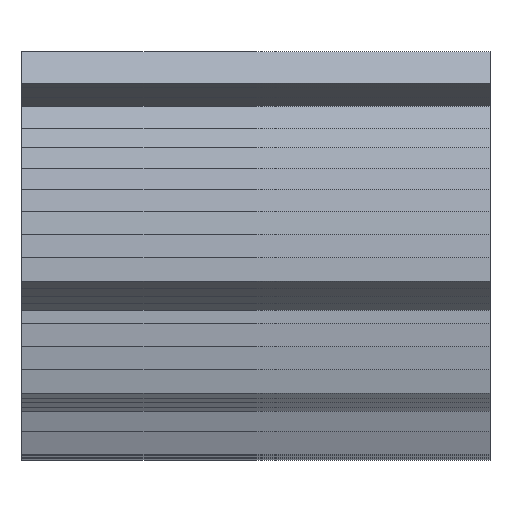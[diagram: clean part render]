
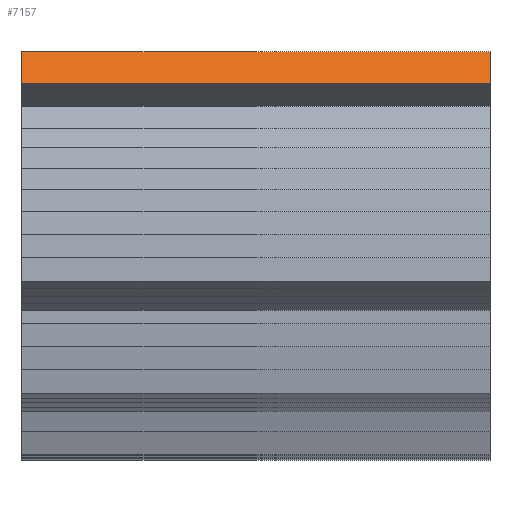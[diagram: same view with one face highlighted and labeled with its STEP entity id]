
A CAD part, top view. The second image highlights one B-rep face of the part: STEP entity #7157.
In plain terms, the highlighted planar face has unit normal (0, 0.588, 0.809).
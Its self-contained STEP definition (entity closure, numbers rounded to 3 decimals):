
#72 = PLANE('',#73);
#73 = AXIS2_PLACEMENT_3D('',#74,#75,#76);
#74 = CARTESIAN_POINT('',(-14.,0.,0.)
  );
#75 = DIRECTION('',(1.,0.,0.));
#76 = DIRECTION('',(0.,-0.995,-0.105));
#126 = PLANE('',#127);
#127 = AXIS2_PLACEMENT_3D('',#128,#129,#130);
#128 = CARTESIAN_POINT('',(-26.,0.,0.)
  );
#129 = DIRECTION('',(1.,0.,0.));
#130 = DIRECTION('',(0.,-0.995,-0.105));
#1307 = VERTEX_POINT('',#1308);
#1308 = CARTESIAN_POINT('',(-14.,-21.439,15.576));
#1327 = CYLINDRICAL_SURFACE('',#1328,26.5);
#1328 = AXIS2_PLACEMENT_3D('',#1329,#1330,#1331);
#1329 = CARTESIAN_POINT('',(-27.,0.,0.));
#1330 = DIRECTION('',(-1.,-0.,-0.));
#1331 = DIRECTION('',(0.,-1.,0.));
#1339 = EDGE_CURVE('',#1340,#1307,#1342,.T.);
#1340 = VERTEX_POINT('',#1341);
#1341 = CARTESIAN_POINT('',(-14.,-22.247,16.164));
#1342 = SURFACE_CURVE('',#1343,(#1347,#1353),.PCURVE_S1.);
#1343 = LINE('',#1344,#1345);
#1344 = CARTESIAN_POINT('',(-14.,0.,0.)
  );
#1345 = VECTOR('',#1346,1.);
#1346 = DIRECTION('',(0.,0.809,-0.588));
#1347 = PCURVE('',#72,#1348);
#1348 = DEFINITIONAL_REPRESENTATION('',(#1349),#1352);
#1349 = B_SPLINE_CURVE_WITH_KNOTS('',1,(#1350,#1351),.UNSPECIFIED.,.F.,
  .F.,(2,2),(-42.,0.),.PIECEWISE_BEZIER_KNOTS.);
#1350 = CARTESIAN_POINT('',(31.212,-28.103));
#1351 = CARTESIAN_POINT('',(0.,0.));
#1352 = ( GEOMETRIC_REPRESENTATION_CONTEXT(2) 
PARAMETRIC_REPRESENTATION_CONTEXT() REPRESENTATION_CONTEXT('2D SPACE',''
  ) );
#1353 = PCURVE('',#1354,#1359);
#1354 = PLANE('',#1355);
#1355 = AXIS2_PLACEMENT_3D('',#1356,#1357,#1358);
#1356 = CARTESIAN_POINT('',(-27.,0.,0.));
#1357 = DIRECTION('',(0.,-0.588,-0.809));
#1358 = DIRECTION('',(0.,-0.809,0.588));
#1359 = DEFINITIONAL_REPRESENTATION('',(#1360),#1363);
#1360 = B_SPLINE_CURVE_WITH_KNOTS('',1,(#1361,#1362),.UNSPECIFIED.,.F.,
  .F.,(2,2),(-42.,0.),.PIECEWISE_BEZIER_KNOTS.);
#1361 = CARTESIAN_POINT('',(42.,-13.));
#1362 = CARTESIAN_POINT('',(0.,-13.));
#1363 = ( GEOMETRIC_REPRESENTATION_CONTEXT(2) 
PARAMETRIC_REPRESENTATION_CONTEXT() REPRESENTATION_CONTEXT('2D SPACE',''
  ) );
#1381 = PLANE('',#1382);
#1382 = AXIS2_PLACEMENT_3D('',#1383,#1384,#1385);
#1383 = CARTESIAN_POINT('',(-26.,-22.126,16.33));
#1384 = DIRECTION('',(0.,0.809,-0.588));
#1385 = DIRECTION('',(0.,-0.588,-0.809));
#7115 = VERTEX_POINT('',#7116);
#7116 = CARTESIAN_POINT('',(-26.,-22.247,16.164));
#7137 = EDGE_CURVE('',#1340,#7115,#7138,.T.);
#7138 = SURFACE_CURVE('',#7139,(#7143,#7149),.PCURVE_S1.);
#7139 = LINE('',#7140,#7141);
#7140 = CARTESIAN_POINT('',(-26.5,-22.247,16.164));
#7141 = VECTOR('',#7142,1.);
#7142 = DIRECTION('',(-1.,0.,0.));
#7143 = PCURVE('',#1381,#7144);
#7144 = DEFINITIONAL_REPRESENTATION('',(#7145),#7148);
#7145 = B_SPLINE_CURVE_WITH_KNOTS('',1,(#7146,#7147),.UNSPECIFIED.,.F.,
  .F.,(2,2),(-12.5,-0.5),.PIECEWISE_BEZIER_KNOTS.);
#7146 = CARTESIAN_POINT('',(0.206,-12.));
#7147 = CARTESIAN_POINT('',(0.206,0.));
#7148 = ( GEOMETRIC_REPRESENTATION_CONTEXT(2) 
PARAMETRIC_REPRESENTATION_CONTEXT() REPRESENTATION_CONTEXT('2D SPACE',''
  ) );
#7149 = PCURVE('',#1354,#7150);
#7150 = DEFINITIONAL_REPRESENTATION('',(#7151),#7154);
#7151 = B_SPLINE_CURVE_WITH_KNOTS('',1,(#7152,#7153),.UNSPECIFIED.,.F.,
  .F.,(2,2),(-12.5,-0.5),.PIECEWISE_BEZIER_KNOTS.);
#7152 = CARTESIAN_POINT('',(27.499,-13.));
#7153 = CARTESIAN_POINT('',(27.499,-1.));
#7154 = ( GEOMETRIC_REPRESENTATION_CONTEXT(2) 
PARAMETRIC_REPRESENTATION_CONTEXT() REPRESENTATION_CONTEXT('2D SPACE',''
  ) );
#7157 = ADVANCED_FACE('',(#7158),#1354,.F.);
#7158 = FACE_BOUND('',#7159,.F.);
#7159 = EDGE_LOOP('',(#7160,#7161,#7162,#7183));
#7160 = ORIENTED_EDGE('',*,*,#1339,.F.);
#7161 = ORIENTED_EDGE('',*,*,#7137,.T.);
#7162 = ORIENTED_EDGE('',*,*,#7163,.T.);
#7163 = EDGE_CURVE('',#7115,#7164,#7166,.T.);
#7164 = VERTEX_POINT('',#7165);
#7165 = CARTESIAN_POINT('',(-26.,-21.439,15.576));
#7166 = SURFACE_CURVE('',#7167,(#7171,#7177),.PCURVE_S1.);
#7167 = LINE('',#7168,#7169);
#7168 = CARTESIAN_POINT('',(-26.,0.,0.)
  );
#7169 = VECTOR('',#7170,1.);
#7170 = DIRECTION('',(0.,0.809,-0.588));
#7171 = PCURVE('',#1354,#7172);
#7172 = DEFINITIONAL_REPRESENTATION('',(#7173),#7176);
#7173 = B_SPLINE_CURVE_WITH_KNOTS('',1,(#7174,#7175),.UNSPECIFIED.,.F.,
  .F.,(2,2),(-42.,0.),.PIECEWISE_BEZIER_KNOTS.);
#7174 = CARTESIAN_POINT('',(42.,-1.));
#7175 = CARTESIAN_POINT('',(0.,-1.));
#7176 = ( GEOMETRIC_REPRESENTATION_CONTEXT(2) 
PARAMETRIC_REPRESENTATION_CONTEXT() REPRESENTATION_CONTEXT('2D SPACE',''
  ) );
#7177 = PCURVE('',#126,#7178);
#7178 = DEFINITIONAL_REPRESENTATION('',(#7179),#7182);
#7179 = B_SPLINE_CURVE_WITH_KNOTS('',1,(#7180,#7181),.UNSPECIFIED.,.F.,
  .F.,(2,2),(-42.,0.),.PIECEWISE_BEZIER_KNOTS.);
#7180 = CARTESIAN_POINT('',(31.212,-28.103));
#7181 = CARTESIAN_POINT('',(0.,0.));
#7182 = ( GEOMETRIC_REPRESENTATION_CONTEXT(2) 
PARAMETRIC_REPRESENTATION_CONTEXT() REPRESENTATION_CONTEXT('2D SPACE',''
  ) );
#7183 = ORIENTED_EDGE('',*,*,#7184,.F.);
#7184 = EDGE_CURVE('',#1307,#7164,#7185,.T.);
#7185 = SURFACE_CURVE('',#7186,(#7190,#7196),.PCURVE_S1.);
#7186 = LINE('',#7187,#7188);
#7187 = CARTESIAN_POINT('',(-27.,-21.439,15.576));
#7188 = VECTOR('',#7189,1.);
#7189 = DIRECTION('',(-1.,-0.,-0.));
#7190 = PCURVE('',#1354,#7191);
#7191 = DEFINITIONAL_REPRESENTATION('',(#7192),#7195);
#7192 = B_SPLINE_CURVE_WITH_KNOTS('',1,(#7193,#7194),.UNSPECIFIED.,.F.,
  .F.,(2,2),(-14.,0.),.PIECEWISE_BEZIER_KNOTS.);
#7193 = CARTESIAN_POINT('',(26.5,-14.));
#7194 = CARTESIAN_POINT('',(26.5,0.));
#7195 = ( GEOMETRIC_REPRESENTATION_CONTEXT(2) 
PARAMETRIC_REPRESENTATION_CONTEXT() REPRESENTATION_CONTEXT('2D SPACE',''
  ) );
#7196 = PCURVE('',#1327,#7197);
#7197 = DEFINITIONAL_REPRESENTATION('',(#7198),#7201);
#7198 = B_SPLINE_CURVE_WITH_KNOTS('',1,(#7199,#7200),.UNSPECIFIED.,.F.,
  .F.,(2,2),(-13.,-1.),.PIECEWISE_BEZIER_KNOTS.);
#7199 = CARTESIAN_POINT('',(-5.655,-13.));
#7200 = CARTESIAN_POINT('',(-5.655,-1.));
#7201 = ( GEOMETRIC_REPRESENTATION_CONTEXT(2) 
PARAMETRIC_REPRESENTATION_CONTEXT() REPRESENTATION_CONTEXT('2D SPACE',''
  ) );
